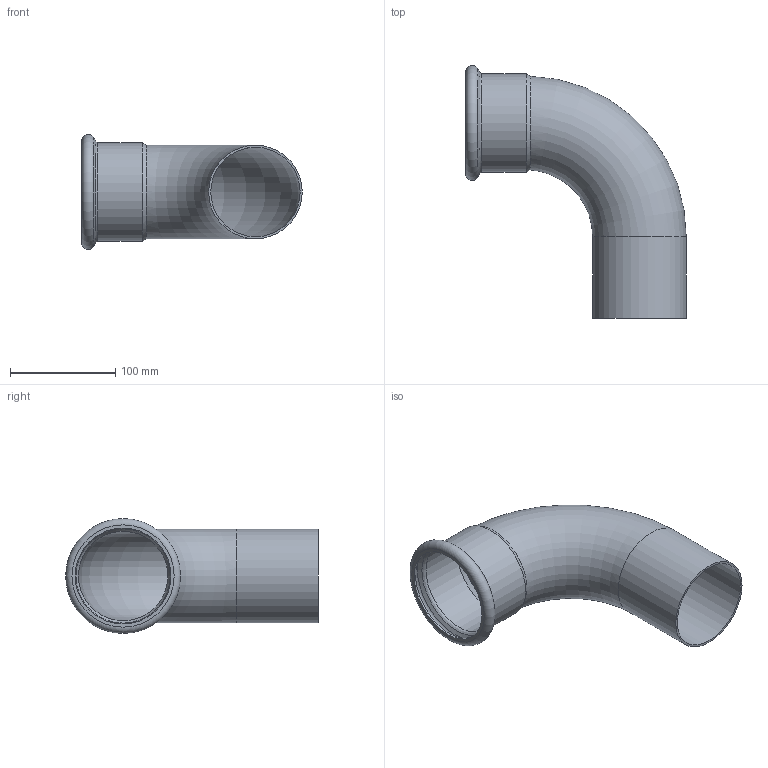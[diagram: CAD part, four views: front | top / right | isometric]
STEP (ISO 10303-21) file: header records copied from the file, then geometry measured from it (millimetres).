
FILE_DESCRIPTION((''),'2;1');
FILE_NAME('G:\Technics\CAD\Bauteile\089\69001A89(1).stp','2008-03-11T15:00:48',('herberg'),(''),'Autodesk Inventor 2008','Autodesk Inventor 2008','');
FILE_SCHEMA(('AUTOMOTIVE_DESIGN { 1 0 10303 214 1 1 1 1 }'));
Length unit declared in the file: millimetre
Products named in the file (1): 69001A89(1)
Bounding box: 209.45 x 240.05 x 109.1 mm (x, y, z)
Volume: 174344.1 mm3; surface area: 175469.1 mm2
Topology: 1 solids, 1 shells, 18 faces, 34 edges, 19 vertices
Faces by surface type: cylinder 5, cone 4, torus 4, plane 3, bspline 2
Full cylindrical faces by diameter (mm): 84.9 x1, 88.9 x1, 89.5 x1, 91 x1, 93.5 x1
Entity records: 540 total; most frequent: CARTESIAN_POINT 215, DIRECTION 66, ORIENTED_EDGE 36, EDGE_LOOP 36, AXIS2_PLACEMENT_3D 33, VERTEX_POINT 18, EDGE_CURVE 18, FACE_OUTER_BOUND 18
